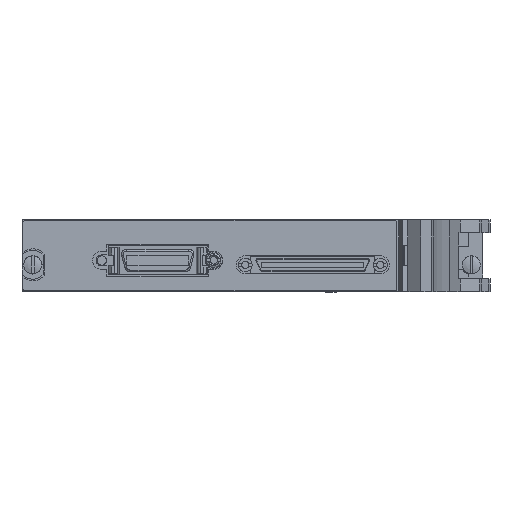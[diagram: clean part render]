
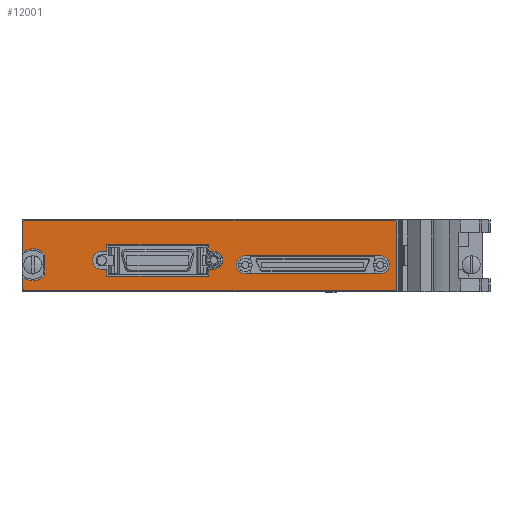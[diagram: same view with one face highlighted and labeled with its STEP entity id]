
A CAD part, left-side view. The second image highlights one B-rep face of the part: STEP entity #12001.
In plain terms, the highlighted planar face has unit normal (-1, 0, 0).
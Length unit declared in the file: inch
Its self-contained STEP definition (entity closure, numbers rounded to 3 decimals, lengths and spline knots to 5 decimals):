
#1345=CARTESIAN_POINT('',(-0.215,0.527,0.665));
#1346=DIRECTION('',(-1.,0.,0.));
#1347=DIRECTION('',(0.,0.,1.));
#1348=AXIS2_PLACEMENT_3D('',#1345,#1346,#1347);
#1350=DIRECTION('',(0.,1.,0.));
#1351=VECTOR('',#1350,4.07);
#1352=CARTESIAN_POINT('',(-0.215,-3.543,0.685));
#1353=LINE('',#1352,#1351);
#1354=CARTESIAN_POINT('',(-0.215,-3.543,0.665));
#1355=DIRECTION('',(-1.,0.,0.));
#1356=DIRECTION('',(0.,-1.,0.));
#1357=AXIS2_PLACEMENT_3D('',#1354,#1355,#1356);
#1359=DIRECTION('',(0.,0.,1.));
#1360=VECTOR('',#1359,0.728);
#1361=CARTESIAN_POINT('',(-0.215,-3.563,-0.063));
#1362=LINE('',#1361,#1360);
#1363=CARTESIAN_POINT('',(-0.215,-3.543,-0.063));
#1364=DIRECTION('',(-1.,0.,0.));
#1365=DIRECTION('',(0.,0.,-1.));
#1366=AXIS2_PLACEMENT_3D('',#1363,#1364,#1365);
#1368=DIRECTION('',(0.,-1.,0.));
#1369=VECTOR('',#1368,4.07);
#1370=CARTESIAN_POINT('',(-0.215,0.527,-0.083));
#1371=LINE('',#1370,#1369);
#1372=CARTESIAN_POINT('',(-0.215,0.527,-0.063));
#1373=DIRECTION('',(-1.,0.,0.));
#1374=DIRECTION('',(0.,1.,0.));
#1375=AXIS2_PLACEMENT_3D('',#1372,#1373,#1374);
#1377=DIRECTION('',(0.,0.,-1.));
#1378=VECTOR('',#1377,0.1263);
#1379=CARTESIAN_POINT('',(-0.215,0.547,0.0633));
#1380=LINE('',#1379,#1378);
#1381=CARTESIAN_POINT('',(-0.215,0.439,0.201));
#1382=DIRECTION('',(1.,0.,0.));
#1383=DIRECTION('',(0.,-0.76,-0.65));
#1384=AXIS2_PLACEMENT_3D('',#1381,#1382,#1383);
#1386=DIRECTION('',(0.,0.,-1.));
#1387=VECTOR('',#1386,0.22747);
#1388=CARTESIAN_POINT('',(-0.215,0.306,0.31474));
#1389=LINE('',#1388,#1387);
#1390=CARTESIAN_POINT('',(-0.215,0.439,0.201));
#1391=DIRECTION('',(1.,0.,0.));
#1392=DIRECTION('',(0.,0.617,0.787));
#1393=AXIS2_PLACEMENT_3D('',#1390,#1391,#1392);
#1395=DIRECTION('',(0.,0.,-1.));
#1396=VECTOR('',#1395,0.3263);
#1397=CARTESIAN_POINT('',(-0.215,0.547,0.665));
#1398=LINE('',#1397,#1396);
#1399=CARTESIAN_POINT('',(-0.215,-1.89535,0.1998));
#1400=DIRECTION('',(-1.,0.,0.));
#1401=DIRECTION('',(0.,0.,1.));
#1402=AXIS2_PLACEMENT_3D('',#1399,#1400,#1401);
#1404=DIRECTION('',(0.,-1.,0.));
#1405=VECTOR('',#1404,1.48425);
#1406=CARTESIAN_POINT('',(-0.215,-1.89535,0.0998));
#1407=LINE('',#1406,#1405);
#1408=CARTESIAN_POINT('',(-0.215,-3.37961,0.1998));
#1409=DIRECTION('',(-1.,0.,0.));
#1410=DIRECTION('',(0.,0.,-1.));
#1411=AXIS2_PLACEMENT_3D('',#1408,#1409,#1410);
#1413=DIRECTION('',(0.,1.,0.));
#1414=VECTOR('',#1413,1.48425);
#1415=CARTESIAN_POINT('',(-0.215,-3.37961,0.2998));
#1416=LINE('',#1415,#1414);
#1417=DIRECTION('',(0.,0.,1.));
#1418=VECTOR('',#1417,0.075);
#1419=CARTESIAN_POINT('',(-0.215,-1.49311,0.07401));
#1420=LINE('',#1419,#1418);
#1421=DIRECTION('',(0.,-1.,0.));
#1422=VECTOR('',#1421,0.05571);
#1423=CARTESIAN_POINT('',(-0.215,-1.49311,0.14901));
#1424=LINE('',#1423,#1422);
#1425=CARTESIAN_POINT('',(-0.215,-1.54882,0.24901));
#1426=DIRECTION('',(-1.,0.,0.));
#1427=DIRECTION('',(0.,0.,-1.));
#1428=AXIS2_PLACEMENT_3D('',#1425,#1426,#1427);
#1430=DIRECTION('',(0.,1.,0.));
#1431=VECTOR('',#1430,0.05571);
#1432=CARTESIAN_POINT('',(-0.215,-1.54882,0.34901));
#1433=LINE('',#1432,#1431);
#1434=DIRECTION('',(0.,0.,1.));
#1435=VECTOR('',#1434,0.075);
#1436=CARTESIAN_POINT('',(-0.215,-1.49311,0.34901));
#1437=LINE('',#1436,#1435);
#1438=DIRECTION('',(0.,1.,0.));
#1439=VECTOR('',#1438,1.12);
#1440=CARTESIAN_POINT('',(-0.215,-1.49311,0.42401));
#1441=LINE('',#1440,#1439);
#1442=DIRECTION('',(0.,0.,-1.));
#1443=VECTOR('',#1442,0.075);
#1444=CARTESIAN_POINT('',(-0.215,-0.37311,0.42401));
#1445=LINE('',#1444,#1443);
#1446=DIRECTION('',(0.,1.,0.));
#1447=VECTOR('',#1446,0.055);
#1448=CARTESIAN_POINT('',(-0.215,-0.37311,0.34901));
#1449=LINE('',#1448,#1447);
#1450=CARTESIAN_POINT('',(-0.215,-0.31811,0.24901));
#1451=DIRECTION('',(-1.,0.,0.));
#1452=DIRECTION('',(0.,0.,1.));
#1453=AXIS2_PLACEMENT_3D('',#1450,#1451,#1452);
#1455=DIRECTION('',(0.,-1.,0.));
#1456=VECTOR('',#1455,0.055);
#1457=CARTESIAN_POINT('',(-0.215,-0.31811,0.14901));
#1458=LINE('',#1457,#1456);
#1459=DIRECTION('',(0.,0.,-1.));
#1460=VECTOR('',#1459,0.075);
#1461=CARTESIAN_POINT('',(-0.215,-0.37311,0.14901));
#1462=LINE('',#1461,#1460);
#1463=DIRECTION('',(0.,-1.,0.));
#1464=VECTOR('',#1463,1.12);
#1465=CARTESIAN_POINT('',(-0.215,-0.37311,0.07401));
#1466=LINE('',#1465,#1464);
#9397=CARTESIAN_POINT('',(-0.215,0.527,0.685));
#9398=CARTESIAN_POINT('',(-0.215,0.547,0.665));
#9399=VERTEX_POINT('',#9397);
#9400=VERTEX_POINT('',#9398);
#9401=CARTESIAN_POINT('',(-0.215,0.547,0.3387));
#9402=VERTEX_POINT('',#9401);
#9403=CARTESIAN_POINT('',(-0.215,0.306,0.31474));
#9404=VERTEX_POINT('',#9403);
#9405=CARTESIAN_POINT('',(-0.215,0.306,0.08726));
#9406=VERTEX_POINT('',#9405);
#9407=CARTESIAN_POINT('',(-0.215,0.547,0.0633));
#9408=VERTEX_POINT('',#9407);
#9409=CARTESIAN_POINT('',(-0.215,0.547,-0.063));
#9410=VERTEX_POINT('',#9409);
#9411=CARTESIAN_POINT('',(-0.215,0.527,-0.083));
#9412=VERTEX_POINT('',#9411);
#9413=CARTESIAN_POINT('',(-0.215,-3.543,-0.083));
#9414=VERTEX_POINT('',#9413);
#9415=CARTESIAN_POINT('',(-0.215,-3.563,-0.063));
#9416=VERTEX_POINT('',#9415);
#9417=CARTESIAN_POINT('',(-0.215,-3.563,0.665));
#9418=VERTEX_POINT('',#9417);
#9419=CARTESIAN_POINT('',(-0.215,-3.543,0.685));
#9420=VERTEX_POINT('',#9419);
#9421=CARTESIAN_POINT('',(-0.215,-1.89535,0.2998));
#9422=CARTESIAN_POINT('',(-0.215,-1.89535,0.0998));
#9423=VERTEX_POINT('',#9421);
#9424=VERTEX_POINT('',#9422);
#9425=CARTESIAN_POINT('',(-0.215,-3.37961,0.0998));
#9426=VERTEX_POINT('',#9425);
#9427=CARTESIAN_POINT('',(-0.215,-3.37961,0.2998));
#9428=VERTEX_POINT('',#9427);
#9429=CARTESIAN_POINT('',(-0.215,-1.49311,0.07401));
#9430=CARTESIAN_POINT('',(-0.215,-1.49311,0.14901));
#9431=VERTEX_POINT('',#9429);
#9432=VERTEX_POINT('',#9430);
#9433=CARTESIAN_POINT('',(-0.215,-1.49311,0.42401));
#9434=CARTESIAN_POINT('',(-0.215,-0.37311,0.42401));
#9435=VERTEX_POINT('',#9433);
#9436=VERTEX_POINT('',#9434);
#9437=CARTESIAN_POINT('',(-0.215,-0.37311,0.34901));
#9438=VERTEX_POINT('',#9437);
#9439=CARTESIAN_POINT('',(-0.215,-0.37311,0.07401));
#9440=VERTEX_POINT('',#9439);
#9441=CARTESIAN_POINT('',(-0.215,-1.54882,0.14901));
#9442=VERTEX_POINT('',#9441);
#9443=CARTESIAN_POINT('',(-0.215,-1.54882,0.34901));
#9444=VERTEX_POINT('',#9443);
#9445=CARTESIAN_POINT('',(-0.215,-1.49311,0.34901));
#9446=VERTEX_POINT('',#9445);
#9447=CARTESIAN_POINT('',(-0.215,-0.31811,0.34901));
#9448=VERTEX_POINT('',#9447);
#9449=CARTESIAN_POINT('',(-0.215,-0.31811,0.14901));
#9450=VERTEX_POINT('',#9449);
#9451=CARTESIAN_POINT('',(-0.215,-0.37311,0.14901));
#9452=VERTEX_POINT('',#9451);
#11946=CARTESIAN_POINT('',(-0.215,0.439,0.201));
#11947=DIRECTION('',(-1.,0.,0.));
#11948=DIRECTION('',(0.,0.,1.));
#11949=AXIS2_PLACEMENT_3D('',#11946,#11947,#11948);
#11950=PLANE('',#11949);
#11951=ORIENTED_EDGE('',*,*,#11786,.F.);
#11952=ORIENTED_EDGE('',*,*,#11801,.F.);
#11953=ORIENTED_EDGE('',*,*,#11815,.F.);
#11954=ORIENTED_EDGE('',*,*,#11829,.F.);
#11955=ORIENTED_EDGE('',*,*,#11843,.F.);
#11956=ORIENTED_EDGE('',*,*,#11857,.F.);
#11957=ORIENTED_EDGE('',*,*,#11871,.F.);
#11958=ORIENTED_EDGE('',*,*,#11885,.F.);
#11959=ORIENTED_EDGE('',*,*,#11899,.F.);
#11960=ORIENTED_EDGE('',*,*,#11913,.F.);
#11961=ORIENTED_EDGE('',*,*,#11927,.F.);
#11962=ORIENTED_EDGE('',*,*,#11940,.F.);
#11963=EDGE_LOOP('',(#11951,#11952,#11953,#11954,#11955,#11956,#11957,#11958,
#11959,#11960,#11961,#11962));
#11964=FACE_OUTER_BOUND('',#11963,.F.);
#11966=ORIENTED_EDGE('',*,*,#11965,.T.);
#11968=ORIENTED_EDGE('',*,*,#11967,.T.);
#11970=ORIENTED_EDGE('',*,*,#11969,.T.);
#11972=ORIENTED_EDGE('',*,*,#11971,.T.);
#11973=EDGE_LOOP('',(#11966,#11968,#11970,#11972));
#11974=FACE_BOUND('',#11973,.F.);
#11976=ORIENTED_EDGE('',*,*,#11975,.T.);
#11978=ORIENTED_EDGE('',*,*,#11977,.T.);
#11980=ORIENTED_EDGE('',*,*,#11979,.T.);
#11982=ORIENTED_EDGE('',*,*,#11981,.T.);
#11984=ORIENTED_EDGE('',*,*,#11983,.T.);
#11986=ORIENTED_EDGE('',*,*,#11985,.T.);
#11988=ORIENTED_EDGE('',*,*,#11987,.T.);
#11990=ORIENTED_EDGE('',*,*,#11989,.T.);
#11992=ORIENTED_EDGE('',*,*,#11991,.T.);
#11994=ORIENTED_EDGE('',*,*,#11993,.T.);
#11996=ORIENTED_EDGE('',*,*,#11995,.T.);
#11998=ORIENTED_EDGE('',*,*,#11997,.T.);
#11999=EDGE_LOOP('',(#11976,#11978,#11980,#11982,#11984,#11986,#11988,#11990,
#11992,#11994,#11996,#11998));
#12000=FACE_BOUND('',#11999,.F.);
#12001=ADVANCED_FACE('',(#11964,#11974,#12000),#11950,.T.);
#1349=CIRCLE('',#1348,0.02);
#1358=CIRCLE('',#1357,0.02);
#1367=CIRCLE('',#1366,0.02);
#1376=CIRCLE('',#1375,0.02);
#1385=CIRCLE('',#1384,0.175);
#1394=CIRCLE('',#1393,0.175);
#1403=CIRCLE('',#1402,0.1);
#1412=CIRCLE('',#1411,0.1);
#1429=CIRCLE('',#1428,0.1);
#1454=CIRCLE('',#1453,0.1);
#11786=EDGE_CURVE('',#9399,#9400,#1349,.T.);
#11801=EDGE_CURVE('',#9420,#9399,#1353,.T.);
#11815=EDGE_CURVE('',#9418,#9420,#1358,.T.);
#11829=EDGE_CURVE('',#9416,#9418,#1362,.T.);
#11843=EDGE_CURVE('',#9414,#9416,#1367,.T.);
#11857=EDGE_CURVE('',#9412,#9414,#1371,.T.);
#11871=EDGE_CURVE('',#9410,#9412,#1376,.T.);
#11885=EDGE_CURVE('',#9408,#9410,#1380,.T.);
#11899=EDGE_CURVE('',#9406,#9408,#1385,.T.);
#11913=EDGE_CURVE('',#9404,#9406,#1389,.T.);
#11927=EDGE_CURVE('',#9402,#9404,#1394,.T.);
#11940=EDGE_CURVE('',#9400,#9402,#1398,.T.);
#11965=EDGE_CURVE('',#9423,#9424,#1403,.T.);
#11967=EDGE_CURVE('',#9424,#9426,#1407,.T.);
#11969=EDGE_CURVE('',#9426,#9428,#1412,.T.);
#11971=EDGE_CURVE('',#9428,#9423,#1416,.T.);
#11975=EDGE_CURVE('',#9431,#9432,#1420,.T.);
#11977=EDGE_CURVE('',#9432,#9442,#1424,.T.);
#11979=EDGE_CURVE('',#9442,#9444,#1429,.T.);
#11981=EDGE_CURVE('',#9444,#9446,#1433,.T.);
#11983=EDGE_CURVE('',#9446,#9435,#1437,.T.);
#11985=EDGE_CURVE('',#9435,#9436,#1441,.T.);
#11987=EDGE_CURVE('',#9436,#9438,#1445,.T.);
#11989=EDGE_CURVE('',#9438,#9448,#1449,.T.);
#11991=EDGE_CURVE('',#9448,#9450,#1454,.T.);
#11993=EDGE_CURVE('',#9450,#9452,#1458,.T.);
#11995=EDGE_CURVE('',#9452,#9440,#1462,.T.);
#11997=EDGE_CURVE('',#9440,#9431,#1466,.T.);
